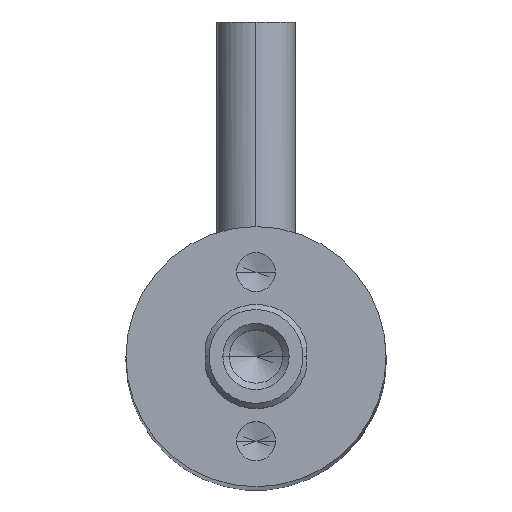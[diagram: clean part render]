
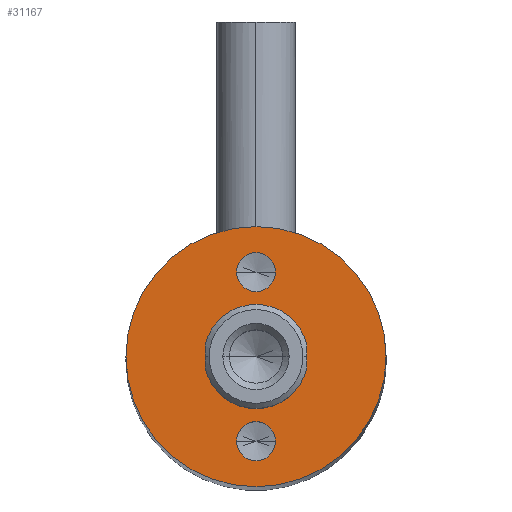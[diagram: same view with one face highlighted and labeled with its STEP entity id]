
A CAD part, top view. The second image highlights one B-rep face of the part: STEP entity #31167.
In plain terms, the highlighted planar face has unit normal (0, 0, 1).
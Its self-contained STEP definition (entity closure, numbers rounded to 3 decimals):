
#31 = CARTESIAN_POINT ( 'NONE',  ( 0., 0., 82.5 ) ) ;
#60 = CIRCLE ( 'NONE', #28985, 0.75 ) ;
#1263 = EDGE_LOOP ( 'NONE', ( #37418, #17308, #35609, #28613 ) ) ;
#1771 = DIRECTION ( 'NONE',  ( 0., 0., 1. ) ) ;
#3299 = CARTESIAN_POINT ( 'NONE',  ( -1.95, -0.444, 82.5 ) ) ;
#3349 = VERTEX_POINT ( 'NONE', #39868 ) ;
#4021 = DIRECTION ( 'NONE',  ( 1., 0., 0. ) ) ;
#5316 = EDGE_CURVE ( 'NONE', #36798, #17891, #35524, .T. ) ;
#5712 = EDGE_CURVE ( 'NONE', #26235, #17196, #24745, .T. ) ;
#5758 = CIRCLE ( 'NONE', #34329, 0.75 ) ;
#5813 = CARTESIAN_POINT ( 'NONE',  ( 1.95, 0.444, 82.5 ) ) ;
#6470 = CARTESIAN_POINT ( 'NONE',  ( 0.75, 3.25, 82.5 ) ) ;
#6593 = EDGE_CURVE ( 'NONE', #17196, #22535, #28899, .T. ) ;
#6744 = DIRECTION ( 'NONE',  ( 1., 0., 0. ) ) ;
#7595 = DIRECTION ( 'NONE',  ( 1., 0., 0. ) ) ;
#10983 = VERTEX_POINT ( 'NONE', #35638 ) ;
#12103 = ORIENTED_EDGE ( 'NONE', *, *, #5316, .T. ) ;
#12533 = EDGE_CURVE ( 'NONE', #10983, #36307, #14536, .T. ) ;
#13318 = AXIS2_PLACEMENT_3D ( 'NONE', #43271, #39582, #43115 ) ;
#13454 = EDGE_LOOP ( 'NONE', ( #34720, #35101 ) ) ;
#14536 = CIRCLE ( 'NONE', #38503, 0.75 ) ;
#15027 = CARTESIAN_POINT ( 'NONE',  ( 0., 3.25, 82.5 ) ) ;
#16494 = PLANE ( 'NONE',  #13318 ) ;
#17196 = VERTEX_POINT ( 'NONE', #33188 ) ;
#17308 = ORIENTED_EDGE ( 'NONE', *, *, #34214, .F. ) ;
#17356 = FACE_BOUND ( 'NONE', #13454, .T. ) ;
#17891 = VERTEX_POINT ( 'NONE', #18867 ) ;
#18867 = CARTESIAN_POINT ( 'NONE',  ( -5., 0., 82.5 ) ) ;
#19129 = LINE ( 'NONE', #32472, #47260 ) ;
#19484 = AXIS2_PLACEMENT_3D ( 'NONE', #43990, #1771, #47827 ) ;
#21262 = CARTESIAN_POINT ( 'NONE',  ( 0., -3.25, 82.5 ) ) ;
#22535 = VERTEX_POINT ( 'NONE', #5813 ) ;
#23408 = AXIS2_PLACEMENT_3D ( 'NONE', #34437, #26904, #7595 ) ;
#23647 = EDGE_CURVE ( 'NONE', #36307, #10983, #60, .T. ) ;
#23838 = CARTESIAN_POINT ( 'NONE',  ( 1.95, -5.595, 82.5 ) ) ;
#24269 = CARTESIAN_POINT ( 'NONE',  ( -1.95, 0.444, 82.5 ) ) ;
#24745 = CIRCLE ( 'NONE', #37494, 2. ) ;
#25288 = DIRECTION ( 'NONE',  ( 0., 0., 1. ) ) ;
#26235 = VERTEX_POINT ( 'NONE', #3299 ) ;
#26752 = DIRECTION ( 'NONE',  ( 0., 0., 1. ) ) ;
#26904 = DIRECTION ( 'NONE',  ( 0., 0., 1. ) ) ;
#27182 = DIRECTION ( 'NONE',  ( 0., 0., 1. ) ) ;
#27703 = ORIENTED_EDGE ( 'NONE', *, *, #41494, .F. ) ;
#28457 = DIRECTION ( 'NONE',  ( 1., 0., 0. ) ) ;
#28613 = ORIENTED_EDGE ( 'NONE', *, *, #6593, .F. ) ;
#28899 = LINE ( 'NONE', #23838, #30090 ) ;
#28985 = AXIS2_PLACEMENT_3D ( 'NONE', #21262, #25288, #28457 ) ;
#28989 = DIRECTION ( 'NONE',  ( 0., 0., 1. ) ) ;
#29315 = CARTESIAN_POINT ( 'NONE',  ( 0., 0., 82.5 ) ) ;
#29881 = ORIENTED_EDGE ( 'NONE', *, *, #38796, .F. ) ;
#30041 = CARTESIAN_POINT ( 'NONE',  ( 0., -3.25, 82.5 ) ) ;
#30090 = VECTOR ( 'NONE', #38706, 1000. ) ;
#31167 = ADVANCED_FACE ( 'NONE', ( #47303, #48507, #37706, #17356 ), #16494, .T. ) ;
#31210 = EDGE_LOOP ( 'NONE', ( #44774, #12103 ) ) ;
#32472 = CARTESIAN_POINT ( 'NONE',  ( -1.95, -5.595, 82.5 ) ) ;
#33188 = CARTESIAN_POINT ( 'NONE',  ( 1.95, -0.444, 82.5 ) ) ;
#33969 = DIRECTION ( 'NONE',  ( 1., 0., 0. ) ) ;
#34214 = EDGE_CURVE ( 'NONE', #39319, #26235, #19129, .T. ) ;
#34329 = AXIS2_PLACEMENT_3D ( 'NONE', #15027, #26752, #33969 ) ;
#34437 = CARTESIAN_POINT ( 'NONE',  ( 0., 3.25, 82.5 ) ) ;
#34720 = ORIENTED_EDGE ( 'NONE', *, *, #23647, .F. ) ;
#35043 = CARTESIAN_POINT ( 'NONE',  ( 0., 0., 82.5 ) ) ;
#35101 = ORIENTED_EDGE ( 'NONE', *, *, #12533, .F. ) ;
#35524 = CIRCLE ( 'NONE', #40743, 5. ) ;
#35609 = ORIENTED_EDGE ( 'NONE', *, *, #37131, .F. ) ;
#35638 = CARTESIAN_POINT ( 'NONE',  ( -0.75, -3.25, 82.5 ) ) ;
#35672 = EDGE_LOOP ( 'NONE', ( #29881, #27703 ) ) ;
#36154 = DIRECTION ( 'NONE',  ( 0., -1., 0. ) ) ;
#36307 = VERTEX_POINT ( 'NONE', #44404 ) ;
#36674 = DIRECTION ( 'NONE',  ( 1., 0., 0. ) ) ;
#36798 = VERTEX_POINT ( 'NONE', #43128 ) ;
#37131 = EDGE_CURVE ( 'NONE', #22535, #39319, #49046, .T. ) ;
#37418 = ORIENTED_EDGE ( 'NONE', *, *, #5712, .F. ) ;
#37494 = AXIS2_PLACEMENT_3D ( 'NONE', #29315, #28989, #36674 ) ;
#37706 = FACE_BOUND ( 'NONE', #35672, .T. ) ;
#38130 = CIRCLE ( 'NONE', #19484, 5. ) ;
#38503 = AXIS2_PLACEMENT_3D ( 'NONE', #30041, #45130, #6744 ) ;
#38699 = DIRECTION ( 'NONE',  ( 0., 0., 1. ) ) ;
#38706 = DIRECTION ( 'NONE',  ( 0., 1., 0. ) ) ;
#38796 = EDGE_CURVE ( 'NONE', #42748, #3349, #43626, .T. ) ;
#39319 = VERTEX_POINT ( 'NONE', #24269 ) ;
#39582 = DIRECTION ( 'NONE',  ( 0., 0., 1. ) ) ;
#39868 = CARTESIAN_POINT ( 'NONE',  ( -0.75, 3.25, 82.5 ) ) ;
#40743 = AXIS2_PLACEMENT_3D ( 'NONE', #31, #27182, #41933 ) ;
#41494 = EDGE_CURVE ( 'NONE', #3349, #42748, #5758, .T. ) ;
#41933 = DIRECTION ( 'NONE',  ( 1., 0., 0. ) ) ;
#42748 = VERTEX_POINT ( 'NONE', #6470 ) ;
#43115 = DIRECTION ( 'NONE',  ( 1., 0., 0. ) ) ;
#43128 = CARTESIAN_POINT ( 'NONE',  ( 5., 0., 82.5 ) ) ;
#43271 = CARTESIAN_POINT ( 'NONE',  ( 0., 0., 82.5 ) ) ;
#43626 = CIRCLE ( 'NONE', #23408, 0.75 ) ;
#43990 = CARTESIAN_POINT ( 'NONE',  ( 0., 0., 82.5 ) ) ;
#44183 = EDGE_CURVE ( 'NONE', #17891, #36798, #38130, .T. ) ;
#44404 = CARTESIAN_POINT ( 'NONE',  ( 0.75, -3.25, 82.5 ) ) ;
#44774 = ORIENTED_EDGE ( 'NONE', *, *, #44183, .T. ) ;
#45130 = DIRECTION ( 'NONE',  ( 0., 0., 1. ) ) ;
#47260 = VECTOR ( 'NONE', #36154, 1000. ) ;
#47303 = FACE_BOUND ( 'NONE', #1263, .T. ) ;
#47827 = DIRECTION ( 'NONE',  ( 1., 0., 0. ) ) ;
#48507 = FACE_OUTER_BOUND ( 'NONE', #31210, .T. ) ;
#48696 = AXIS2_PLACEMENT_3D ( 'NONE', #35043, #38699, #4021 ) ;
#49046 = CIRCLE ( 'NONE', #48696, 2. ) ;
